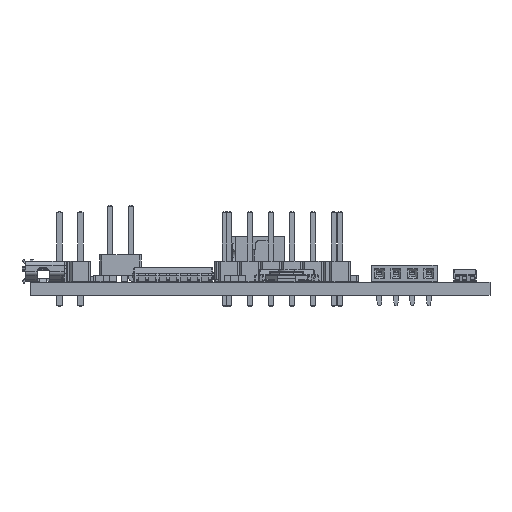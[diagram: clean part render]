
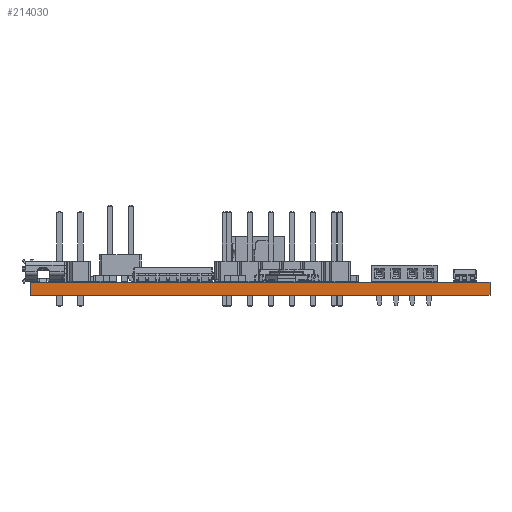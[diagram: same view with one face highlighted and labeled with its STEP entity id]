
A CAD part, front view. The second image highlights one B-rep face of the part: STEP entity #214030.
In plain terms, the highlighted planar face has unit normal (0, -1, 0).
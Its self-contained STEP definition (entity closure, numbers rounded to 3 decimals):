
#211524 = PLANE('',#211525);
#211525 = AXIS2_PLACEMENT_3D('',#211526,#211527,#211528);
#211526 = CARTESIAN_POINT('',(-27.95,-31.,0.));
#211527 = DIRECTION('',(-1.,0.,0.));
#211528 = DIRECTION('',(0.,1.,0.));
#211552 = PLANE('',#211553);
#211553 = AXIS2_PLACEMENT_3D('',#211554,#211555,#211556);
#211554 = CARTESIAN_POINT('',(0.,0.,1.6));
#211555 = DIRECTION('',(0.,0.,-1.));
#211556 = DIRECTION('',(-1.,0.,0.));
#211580 = PLANE('',#211581);
#211581 = AXIS2_PLACEMENT_3D('',#211582,#211583,#211584);
#211582 = CARTESIAN_POINT('',(27.95,31.,0.));
#211583 = DIRECTION('',(1.,0.,0.));
#211584 = DIRECTION('',(0.,-1.,0.));
#211606 = PLANE('',#211607);
#211607 = AXIS2_PLACEMENT_3D('',#211608,#211609,#211610);
#211608 = CARTESIAN_POINT('',(0.,0.,0.));
#211609 = DIRECTION('',(0.,0.,-1.));
#211610 = DIRECTION('',(-1.,0.,0.));
#211621 = EDGE_CURVE('',#211622,#211624,#211626,.T.);
#211622 = VERTEX_POINT('',#211623);
#211623 = CARTESIAN_POINT('',(-27.95,-31.,0.));
#211624 = VERTEX_POINT('',#211625);
#211625 = CARTESIAN_POINT('',(-27.95,-31.,1.6));
#211626 = SURFACE_CURVE('',#211627,(#211631,#211638),.PCURVE_S1.);
#211627 = LINE('',#211628,#211629);
#211628 = CARTESIAN_POINT('',(-27.95,-31.,0.));
#211629 = VECTOR('',#211630,1.);
#211630 = DIRECTION('',(0.,0.,1.));
#211631 = PCURVE('',#211524,#211632);
#211632 = DEFINITIONAL_REPRESENTATION('',(#211633),#211637);
#211633 = LINE('',#211634,#211635);
#211634 = CARTESIAN_POINT('',(0.,0.));
#211635 = VECTOR('',#211636,1.);
#211636 = DIRECTION('',(0.,-1.));
#211637 = ( GEOMETRIC_REPRESENTATION_CONTEXT(2) 
PARAMETRIC_REPRESENTATION_CONTEXT() REPRESENTATION_CONTEXT('2D SPACE',''
  ) );
#211638 = PCURVE('',#211639,#211644);
#211639 = PLANE('',#211640);
#211640 = AXIS2_PLACEMENT_3D('',#211641,#211642,#211643);
#211641 = CARTESIAN_POINT('',(27.95,-31.,0.));
#211642 = DIRECTION('',(0.,-1.,0.));
#211643 = DIRECTION('',(-1.,0.,0.));
#211644 = DEFINITIONAL_REPRESENTATION('',(#211645),#211649);
#211645 = LINE('',#211646,#211647);
#211646 = CARTESIAN_POINT('',(55.9,0.));
#211647 = VECTOR('',#211648,1.);
#211648 = DIRECTION('',(0.,-1.));
#211649 = ( GEOMETRIC_REPRESENTATION_CONTEXT(2) 
PARAMETRIC_REPRESENTATION_CONTEXT() REPRESENTATION_CONTEXT('2D SPACE',''
  ) );
#211699 = VERTEX_POINT('',#211700);
#211700 = CARTESIAN_POINT('',(27.95,-31.,1.6));
#211721 = EDGE_CURVE('',#211722,#211699,#211724,.T.);
#211722 = VERTEX_POINT('',#211723);
#211723 = CARTESIAN_POINT('',(27.95,-31.,0.));
#211724 = SURFACE_CURVE('',#211725,(#211729,#211736),.PCURVE_S1.);
#211725 = LINE('',#211726,#211727);
#211726 = CARTESIAN_POINT('',(27.95,-31.,0.));
#211727 = VECTOR('',#211728,1.);
#211728 = DIRECTION('',(0.,0.,1.));
#211729 = PCURVE('',#211580,#211730);
#211730 = DEFINITIONAL_REPRESENTATION('',(#211731),#211735);
#211731 = LINE('',#211732,#211733);
#211732 = CARTESIAN_POINT('',(62.,0.));
#211733 = VECTOR('',#211734,1.);
#211734 = DIRECTION('',(0.,-1.));
#211735 = ( GEOMETRIC_REPRESENTATION_CONTEXT(2) 
PARAMETRIC_REPRESENTATION_CONTEXT() REPRESENTATION_CONTEXT('2D SPACE',''
  ) );
#211736 = PCURVE('',#211639,#211737);
#211737 = DEFINITIONAL_REPRESENTATION('',(#211738),#211742);
#211738 = LINE('',#211739,#211740);
#211739 = CARTESIAN_POINT('',(0.,0.));
#211740 = VECTOR('',#211741,1.);
#211741 = DIRECTION('',(0.,-1.));
#211742 = ( GEOMETRIC_REPRESENTATION_CONTEXT(2) 
PARAMETRIC_REPRESENTATION_CONTEXT() REPRESENTATION_CONTEXT('2D SPACE',''
  ) );
#211770 = EDGE_CURVE('',#211722,#211622,#211771,.T.);
#211771 = SURFACE_CURVE('',#211772,(#211776,#211783),.PCURVE_S1.);
#211772 = LINE('',#211773,#211774);
#211773 = CARTESIAN_POINT('',(27.95,-31.,0.));
#211774 = VECTOR('',#211775,1.);
#211775 = DIRECTION('',(-1.,0.,0.));
#211776 = PCURVE('',#211606,#211777);
#211777 = DEFINITIONAL_REPRESENTATION('',(#211778),#211782);
#211778 = LINE('',#211779,#211780);
#211779 = CARTESIAN_POINT('',(-27.95,-31.));
#211780 = VECTOR('',#211781,1.);
#211781 = DIRECTION('',(1.,0.));
#211782 = ( GEOMETRIC_REPRESENTATION_CONTEXT(2) 
PARAMETRIC_REPRESENTATION_CONTEXT() REPRESENTATION_CONTEXT('2D SPACE',''
  ) );
#211783 = PCURVE('',#211639,#211784);
#211784 = DEFINITIONAL_REPRESENTATION('',(#211785),#211789);
#211785 = LINE('',#211786,#211787);
#211786 = CARTESIAN_POINT('',(0.,0.));
#211787 = VECTOR('',#211788,1.);
#211788 = DIRECTION('',(1.,0.));
#211789 = ( GEOMETRIC_REPRESENTATION_CONTEXT(2) 
PARAMETRIC_REPRESENTATION_CONTEXT() REPRESENTATION_CONTEXT('2D SPACE',''
  ) );
#212993 = EDGE_CURVE('',#211699,#211624,#212994,.T.);
#212994 = SURFACE_CURVE('',#212995,(#212999,#213006),.PCURVE_S1.);
#212995 = LINE('',#212996,#212997);
#212996 = CARTESIAN_POINT('',(27.95,-31.,1.6));
#212997 = VECTOR('',#212998,1.);
#212998 = DIRECTION('',(-1.,0.,0.));
#212999 = PCURVE('',#211552,#213000);
#213000 = DEFINITIONAL_REPRESENTATION('',(#213001),#213005);
#213001 = LINE('',#213002,#213003);
#213002 = CARTESIAN_POINT('',(-27.95,-31.));
#213003 = VECTOR('',#213004,1.);
#213004 = DIRECTION('',(1.,0.));
#213005 = ( GEOMETRIC_REPRESENTATION_CONTEXT(2) 
PARAMETRIC_REPRESENTATION_CONTEXT() REPRESENTATION_CONTEXT('2D SPACE',''
  ) );
#213006 = PCURVE('',#211639,#213007);
#213007 = DEFINITIONAL_REPRESENTATION('',(#213008),#213012);
#213008 = LINE('',#213009,#213010);
#213009 = CARTESIAN_POINT('',(0.,-1.6));
#213010 = VECTOR('',#213011,1.);
#213011 = DIRECTION('',(1.,0.));
#213012 = ( GEOMETRIC_REPRESENTATION_CONTEXT(2) 
PARAMETRIC_REPRESENTATION_CONTEXT() REPRESENTATION_CONTEXT('2D SPACE',''
  ) );
#214030 = ADVANCED_FACE('',(#214031),#211639,.T.);
#214031 = FACE_BOUND('',#214032,.T.);
#214032 = EDGE_LOOP('',(#214033,#214034,#214035,#214036));
#214033 = ORIENTED_EDGE('',*,*,#211721,.T.);
#214034 = ORIENTED_EDGE('',*,*,#212993,.T.);
#214035 = ORIENTED_EDGE('',*,*,#211621,.F.);
#214036 = ORIENTED_EDGE('',*,*,#211770,.F.);
